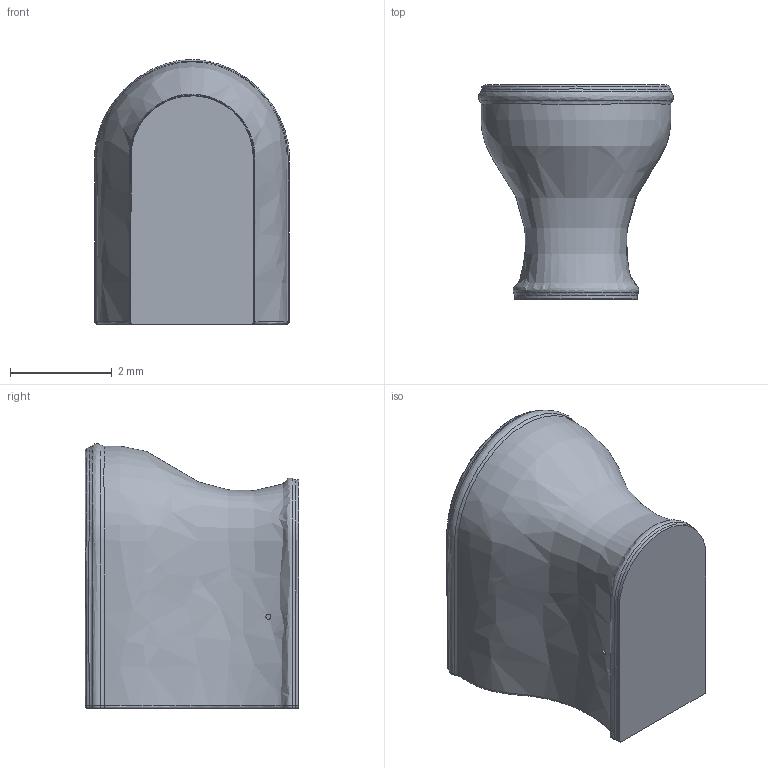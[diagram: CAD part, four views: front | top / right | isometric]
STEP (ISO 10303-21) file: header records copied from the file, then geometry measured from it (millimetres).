
FILE_DESCRIPTION(/* description */ (''),/* implementation_level */ '2;1');
FILE_NAME(/* name */ 'CHBIT000000M',/* time_stamp */ '2019-01-30T16:19:30+01:00',/* author */ (''),/* organization */ (''),/* preprocessor_version */ 'ST-DEVELOPER v15',/* originating_system */ '',/* authorisation */ '');
FILE_SCHEMA (('AUTOMOTIVE_DESIGN'));
Length unit declared in the file: centimetre
Products named in the file (1): Blocco 01
Bounding box: 3.83 x 4.2 x 5.2 mm (x, y, z)
Surface area: 98.3 mm2 (no closed solid volume)
Topology: 0 solids, 3 shells, 65 faces, 155 edges, 95 vertices
Faces by surface type: bspline 59, plane 6
Entity records: 19453 total; most frequent: CARTESIAN_POINT 18578, ORIENTED_EDGE 300, EDGE_CURVE 153, VERTEX_POINT 95, EDGE_LOOP 69, ADVANCED_FACE 65, FACE_OUTER_BOUND 65, B_SPLINE_CURVE_WITH_KNOTS 65
